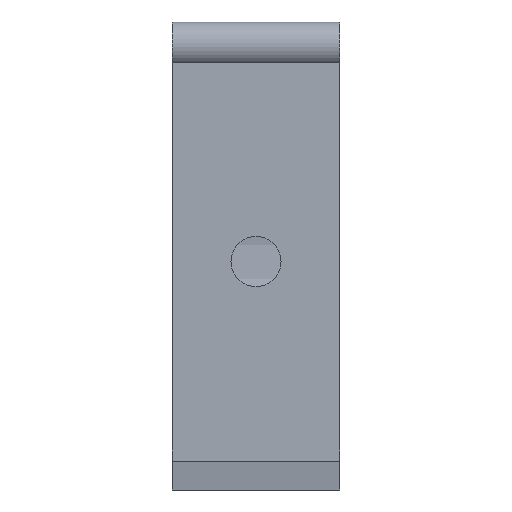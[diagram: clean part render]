
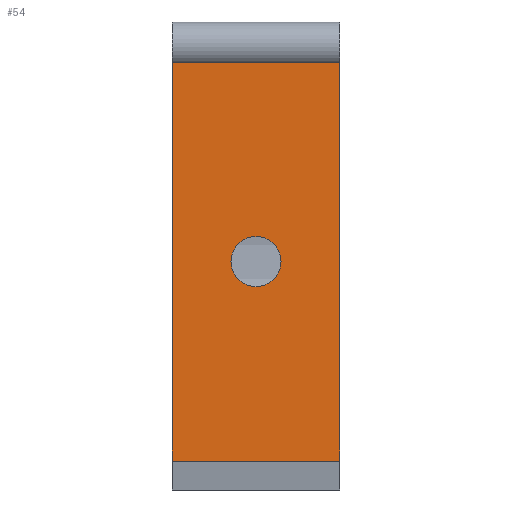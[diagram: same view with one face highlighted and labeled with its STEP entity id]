
A CAD part, front view. The second image highlights one B-rep face of the part: STEP entity #54.
In plain terms, the highlighted planar face has unit normal (0, -1, 0).
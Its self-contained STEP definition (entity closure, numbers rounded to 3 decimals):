
#54=ADVANCED_FACE('',(#227,#229),#231,.T.);
#227=FACE_BOUND('',#228,.T.);
#228=EDGE_LOOP('',(#1345,#1346,#1347,#1348));
#229=FACE_BOUND('',#230,.T.);
#230=EDGE_LOOP('',(#1349));
#231=PLANE('',#232);
#232=AXIS2_PLACEMENT_3D('',#233,#234,#235);
#233=CARTESIAN_POINT('',(-7.5,-23.1,17.9));
#234=DIRECTION('',(0.,-1.,0.));
#235=DIRECTION('',(0.,0.,-1.));
#1345=ORIENTED_EDGE('',*,*,#2438,.T.);
#1346=ORIENTED_EDGE('',*,*,#2439,.T.);
#1347=ORIENTED_EDGE('',*,*,#2440,.F.);
#1348=ORIENTED_EDGE('',*,*,#2441,.F.);
#1349=ORIENTED_EDGE('',*,*,#2442,.T.);
#2438=EDGE_CURVE('',#2901,#2902,#2903,.T.);
#2439=EDGE_CURVE('',#2902,#2904,#2905,.T.);
#2440=EDGE_CURVE('',#2906,#2904,#2907,.T.);
#2441=EDGE_CURVE('',#2901,#2906,#2908,.T.);
#2442=EDGE_CURVE('',#2909,#2909,#2910,.T.);
#2901=VERTEX_POINT('',#3676);
#2902=VERTEX_POINT('',#3677);
#2903=LINE('',#3678,#3679);
#2904=VERTEX_POINT('',#3681);
#2905=LINE('',#3682,#3683);
#2906=VERTEX_POINT('',#3685);
#2907=LINE('',#3686,#3687);
#2908=LINE('',#3689,#3690);
#2909=VERTEX_POINT('',#3692);
#2910=CIRCLE('',#3693,2.25);
#3676=CARTESIAN_POINT('',(-7.5,-23.1,17.9));
#3677=CARTESIAN_POINT('',(-7.5,-23.1,-17.9));
#3678=CARTESIAN_POINT('',(-7.5,-23.1,17.9));
#3679=VECTOR('',#3680,1.);
#3680=DIRECTION('',(0.,0.,-1.));
#3681=CARTESIAN_POINT('',(7.5,-23.1,-17.9));
#3682=CARTESIAN_POINT('',(-7.5,-23.1,-17.9));
#3683=VECTOR('',#3684,1.);
#3684=DIRECTION('',(1.,0.,0.));
#3685=CARTESIAN_POINT('',(7.5,-23.1,17.9));
#3686=CARTESIAN_POINT('',(7.5,-23.1,17.9));
#3687=VECTOR('',#3688,1.);
#3688=DIRECTION('',(0.,0.,-1.));
#3689=CARTESIAN_POINT('',(-7.5,-23.1,17.9));
#3690=VECTOR('',#3691,1.);
#3691=DIRECTION('',(1.,0.,0.));
#3692=CARTESIAN_POINT('',(0.,-23.1,2.25));
#3693=AXIS2_PLACEMENT_3D('',#3694,#3695,#3696);
#3694=CARTESIAN_POINT('',(0.,-23.1,0.));
#3695=DIRECTION('',(0.,1.,0.));
#3696=DIRECTION('',(0.,0.,1.));
